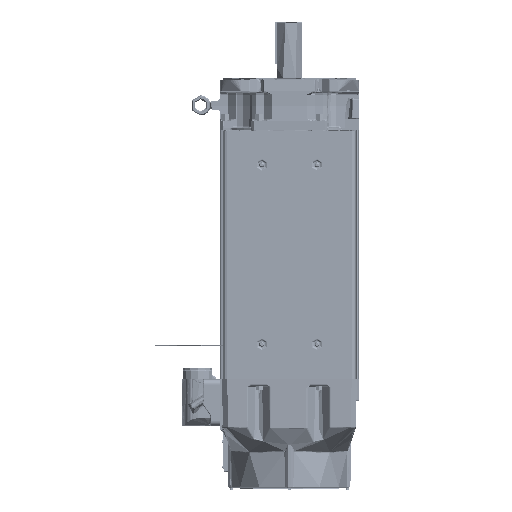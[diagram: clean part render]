
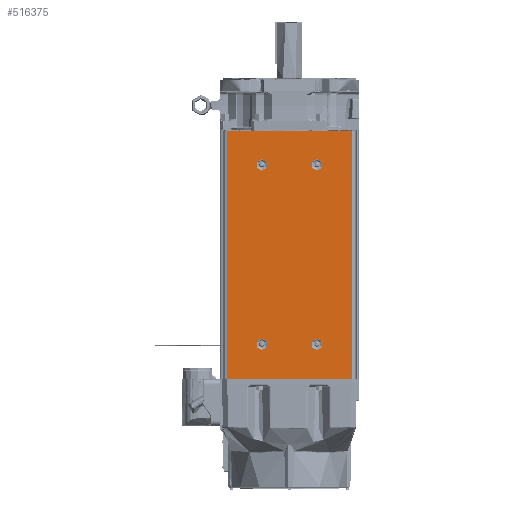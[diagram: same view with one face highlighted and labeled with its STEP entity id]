
A CAD part, left-side view. The second image highlights one B-rep face of the part: STEP entity #516375.
In plain terms, the highlighted planar face has unit normal (-1, 0, 0).
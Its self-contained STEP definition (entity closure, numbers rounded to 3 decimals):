
#515139=DIRECTION('',(0.,0.,-1.));
#515140=VECTOR('',#515139,467.3);
#515141=CARTESIAN_POINT('',(0.,-117.25,233.65));
#515142=LINE('',#515141,#515140);
#515233=DIRECTION('',(0.,1.,0.));
#515234=VECTOR('',#515233,234.5);
#515235=CARTESIAN_POINT('',(0.,-117.25,233.65));
#515236=LINE('',#515235,#515234);
#515245=DIRECTION('',(0.,0.,-1.));
#515246=VECTOR('',#515245,467.3);
#515247=CARTESIAN_POINT('',(0.,117.25,233.65));
#515248=LINE('',#515247,#515246);
#515249=CARTESIAN_POINT('',(0.,-52.,169.15));
#515250=DIRECTION('',(-1.,0.,0.));
#515251=DIRECTION('',(0.,0.,1.));
#515252=AXIS2_PLACEMENT_3D('',#515249,#515250,#515251);
#515254=CARTESIAN_POINT('',(0.,-52.,169.15));
#515255=DIRECTION('',(-1.,0.,0.));
#515256=DIRECTION('',(0.,0.,-1.));
#515257=AXIS2_PLACEMENT_3D('',#515254,#515255,#515256);
#515259=CARTESIAN_POINT('',(0.,-52.,-169.15));
#515260=DIRECTION('',(-1.,0.,0.));
#515261=DIRECTION('',(0.,0.,1.));
#515262=AXIS2_PLACEMENT_3D('',#515259,#515260,#515261);
#515264=CARTESIAN_POINT('',(0.,-52.,-169.15));
#515265=DIRECTION('',(-1.,0.,0.));
#515266=DIRECTION('',(0.,0.,-1.));
#515267=AXIS2_PLACEMENT_3D('',#515264,#515265,#515266);
#515269=CARTESIAN_POINT('',(0.,52.,169.15));
#515270=DIRECTION('',(-1.,0.,0.));
#515271=DIRECTION('',(0.,0.,1.));
#515272=AXIS2_PLACEMENT_3D('',#515269,#515270,#515271);
#515274=CARTESIAN_POINT('',(0.,52.,169.15));
#515275=DIRECTION('',(-1.,0.,0.));
#515276=DIRECTION('',(0.,0.,-1.));
#515277=AXIS2_PLACEMENT_3D('',#515274,#515275,#515276);
#515279=CARTESIAN_POINT('',(0.,52.,-169.15));
#515280=DIRECTION('',(-1.,0.,0.));
#515281=DIRECTION('',(0.,0.,1.));
#515282=AXIS2_PLACEMENT_3D('',#515279,#515280,#515281);
#515284=CARTESIAN_POINT('',(0.,52.,-169.15));
#515285=DIRECTION('',(-1.,0.,0.));
#515286=DIRECTION('',(0.,0.,-1.));
#515287=AXIS2_PLACEMENT_3D('',#515284,#515285,#515286);
#515289=DIRECTION('',(0.,1.,0.));
#515290=VECTOR('',#515289,234.5);
#515291=CARTESIAN_POINT('',(0.,-117.25,-233.65));
#515292=LINE('',#515291,#515290);
#515953=CARTESIAN_POINT('',(0.,-117.25,233.65));
#515954=CARTESIAN_POINT('',(0.,117.25,233.65));
#515955=VERTEX_POINT('',#515953);
#515956=VERTEX_POINT('',#515954);
#515965=CARTESIAN_POINT('',(0.,-117.25,-233.65));
#515966=CARTESIAN_POINT('',(0.,117.25,-233.65));
#515967=VERTEX_POINT('',#515965);
#515968=VERTEX_POINT('',#515966);
#516009=CARTESIAN_POINT('',(0.,-52.,180.135));
#516010=CARTESIAN_POINT('',(0.,-52.,158.165));
#516011=VERTEX_POINT('',#516009);
#516012=VERTEX_POINT('',#516010);
#516049=CARTESIAN_POINT('',(0.,-52.,-158.165));
#516050=CARTESIAN_POINT('',(0.,-52.,-180.135));
#516051=VERTEX_POINT('',#516049);
#516052=VERTEX_POINT('',#516050);
#516089=CARTESIAN_POINT('',(0.,52.,180.135));
#516090=CARTESIAN_POINT('',(0.,52.,158.165));
#516091=VERTEX_POINT('',#516089);
#516092=VERTEX_POINT('',#516090);
#516129=CARTESIAN_POINT('',(0.,52.,-158.165));
#516130=CARTESIAN_POINT('',(0.,52.,-180.135));
#516131=VERTEX_POINT('',#516129);
#516132=VERTEX_POINT('',#516130);
#516338=CARTESIAN_POINT('',(0.,117.25,233.65));
#516339=DIRECTION('',(-1.,0.,0.));
#516340=DIRECTION('',(0.,-1.,0.));
#516341=AXIS2_PLACEMENT_3D('',#516338,#516339,#516340);
#516342=PLANE('',#516341);
#516343=ORIENTED_EDGE('',*,*,#516329,.F.);
#516344=ORIENTED_EDGE('',*,*,#516212,.T.);
#516346=ORIENTED_EDGE('',*,*,#516345,.T.);
#516348=ORIENTED_EDGE('',*,*,#516347,.F.);
#516349=EDGE_LOOP('',(#516343,#516344,#516346,#516348));
#516350=FACE_OUTER_BOUND('',#516349,.F.);
#516352=ORIENTED_EDGE('',*,*,#516351,.T.);
#516354=ORIENTED_EDGE('',*,*,#516353,.T.);
#516355=EDGE_LOOP('',(#516352,#516354));
#516356=FACE_BOUND('',#516355,.F.);
#516358=ORIENTED_EDGE('',*,*,#516357,.T.);
#516360=ORIENTED_EDGE('',*,*,#516359,.T.);
#516361=EDGE_LOOP('',(#516358,#516360));
#516362=FACE_BOUND('',#516361,.F.);
#516364=ORIENTED_EDGE('',*,*,#516363,.T.);
#516366=ORIENTED_EDGE('',*,*,#516365,.T.);
#516367=EDGE_LOOP('',(#516364,#516366));
#516368=FACE_BOUND('',#516367,.F.);
#516370=ORIENTED_EDGE('',*,*,#516369,.T.);
#516372=ORIENTED_EDGE('',*,*,#516371,.T.);
#516373=EDGE_LOOP('',(#516370,#516372));
#516374=FACE_BOUND('',#516373,.F.);
#516375=ADVANCED_FACE('',(#516350,#516356,#516362,#516368,#516374),#516342,.T.);
#515253=CIRCLE('',#515252,10.985);
#515258=CIRCLE('',#515257,10.985);
#515263=CIRCLE('',#515262,10.985);
#515268=CIRCLE('',#515267,10.985);
#515273=CIRCLE('',#515272,10.985);
#515278=CIRCLE('',#515277,10.985);
#515283=CIRCLE('',#515282,10.985);
#515288=CIRCLE('',#515287,10.985);
#516212=EDGE_CURVE('',#515955,#515967,#515142,.T.);
#516329=EDGE_CURVE('',#515955,#515956,#515236,.T.);
#516345=EDGE_CURVE('',#515967,#515968,#515292,.T.);
#516347=EDGE_CURVE('',#515956,#515968,#515248,.T.);
#516351=EDGE_CURVE('',#516011,#516012,#515253,.T.);
#516353=EDGE_CURVE('',#516012,#516011,#515258,.T.);
#516357=EDGE_CURVE('',#516051,#516052,#515263,.T.);
#516359=EDGE_CURVE('',#516052,#516051,#515268,.T.);
#516363=EDGE_CURVE('',#516091,#516092,#515273,.T.);
#516365=EDGE_CURVE('',#516092,#516091,#515278,.T.);
#516369=EDGE_CURVE('',#516131,#516132,#515283,.T.);
#516371=EDGE_CURVE('',#516132,#516131,#515288,.T.);
